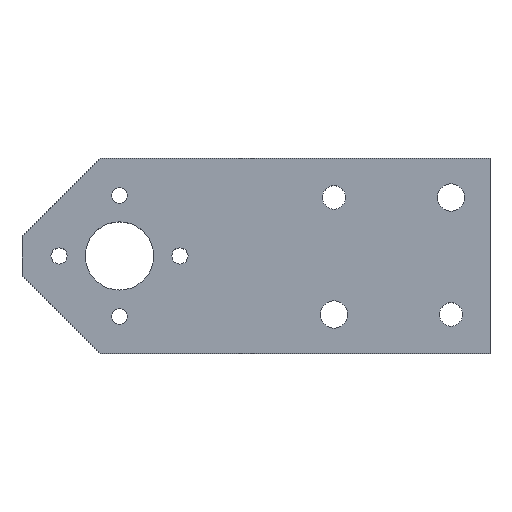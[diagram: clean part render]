
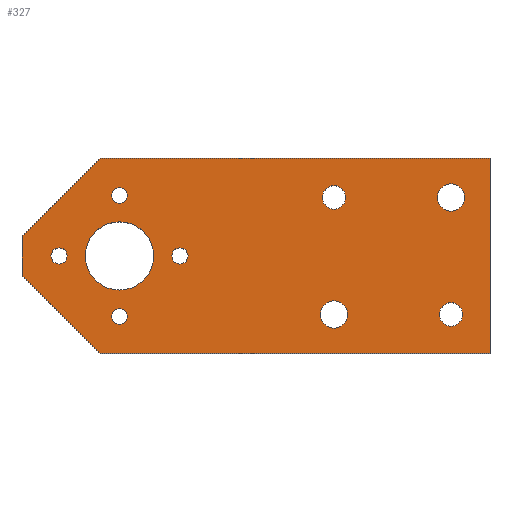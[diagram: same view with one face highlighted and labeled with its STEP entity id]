
A CAD part, top view. The second image highlights one B-rep face of the part: STEP entity #327.
In plain terms, the highlighted planar face has unit normal (0, 0, 1).
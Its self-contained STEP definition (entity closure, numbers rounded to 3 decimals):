
#42=FACE_BOUND('',#120,.T.);
#43=FACE_BOUND('',#121,.T.);
#44=FACE_BOUND('',#122,.T.);
#45=FACE_BOUND('',#123,.T.);
#46=FACE_BOUND('',#124,.T.);
#47=FACE_BOUND('',#125,.T.);
#48=FACE_BOUND('',#126,.T.);
#49=FACE_BOUND('',#127,.T.);
#50=FACE_BOUND('',#128,.T.);
#60=CIRCLE('',#346,2.067);
#61=CIRCLE('',#348,2.067);
#62=CIRCLE('',#350,2.);
#63=CIRCLE('',#352,2.);
#64=CIRCLE('',#354,8.75);
#65=CIRCLE('',#356,3.);
#66=CIRCLE('',#358,3.);
#67=CIRCLE('',#360,3.5);
#68=CIRCLE('',#362,3.5);
#84=FACE_OUTER_BOUND('',#119,.T.);
#119=EDGE_LOOP('',(#288,#289,#290,#291,#292,#293));
#120=EDGE_LOOP('',(#294));
#121=EDGE_LOOP('',(#295));
#122=EDGE_LOOP('',(#296));
#123=EDGE_LOOP('',(#297));
#124=EDGE_LOOP('',(#298));
#125=EDGE_LOOP('',(#299));
#126=EDGE_LOOP('',(#300));
#127=EDGE_LOOP('',(#301));
#128=EDGE_LOOP('',(#302));
#129=LINE('',#460,#147);
#135=LINE('',#471,#153);
#141=LINE('',#501,#159);
#143=LINE('',#505,#161);
#145=LINE('',#536,#163);
#146=LINE('',#538,#164);
#147=VECTOR('',#370,28.284);
#153=VECTOR('',#378,10.);
#159=VECTOR('',#406,28.284);
#161=VECTOR('',#410,100.);
#163=VECTOR('',#450,50.);
#164=VECTOR('',#453,100.);
#165=VERTEX_POINT('',#458);
#166=VERTEX_POINT('',#459);
#170=VERTEX_POINT('',#469);
#183=VERTEX_POINT('',#499);
#184=VERTEX_POINT('',#503);
#185=VERTEX_POINT('',#507);
#186=VERTEX_POINT('',#510);
#187=VERTEX_POINT('',#513);
#188=VERTEX_POINT('',#516);
#189=VERTEX_POINT('',#519);
#190=VERTEX_POINT('',#522);
#191=VERTEX_POINT('',#525);
#192=VERTEX_POINT('',#528);
#193=VERTEX_POINT('',#531);
#194=VERTEX_POINT('',#534);
#195=EDGE_CURVE('',#165,#166,#129,.T.);
#201=EDGE_CURVE('',#165,#170,#135,.T.);
#216=EDGE_CURVE('',#183,#170,#141,.T.);
#218=EDGE_CURVE('',#183,#184,#143,.T.);
#219=EDGE_CURVE('',#185,#185,#60,.T.);
#220=EDGE_CURVE('',#186,#186,#61,.T.);
#221=EDGE_CURVE('',#187,#187,#62,.T.);
#222=EDGE_CURVE('',#188,#188,#63,.T.);
#223=EDGE_CURVE('',#189,#189,#64,.T.);
#224=EDGE_CURVE('',#190,#190,#65,.T.);
#225=EDGE_CURVE('',#191,#191,#66,.T.);
#226=EDGE_CURVE('',#192,#192,#67,.T.);
#227=EDGE_CURVE('',#193,#193,#68,.T.);
#229=EDGE_CURVE('',#184,#194,#145,.T.);
#230=EDGE_CURVE('',#194,#166,#146,.T.);
#288=ORIENTED_EDGE('',*,*,#195,.F.);
#289=ORIENTED_EDGE('',*,*,#201,.T.);
#290=ORIENTED_EDGE('',*,*,#216,.F.);
#291=ORIENTED_EDGE('',*,*,#218,.T.);
#292=ORIENTED_EDGE('',*,*,#229,.T.);
#293=ORIENTED_EDGE('',*,*,#230,.T.);
#294=ORIENTED_EDGE('',*,*,#219,.T.);
#295=ORIENTED_EDGE('',*,*,#220,.T.);
#296=ORIENTED_EDGE('',*,*,#221,.T.);
#297=ORIENTED_EDGE('',*,*,#222,.T.);
#298=ORIENTED_EDGE('',*,*,#223,.T.);
#299=ORIENTED_EDGE('',*,*,#224,.T.);
#300=ORIENTED_EDGE('',*,*,#225,.T.);
#301=ORIENTED_EDGE('',*,*,#226,.T.);
#302=ORIENTED_EDGE('',*,*,#227,.T.);
#310=PLANE('',#365);
#327=ADVANCED_FACE('',(#84,#42,#43,#44,#45,#46,#47,#48,#49,#50),#310,.T.);
#346=AXIS2_PLACEMENT_3D('',#508,#413,#414);
#348=AXIS2_PLACEMENT_3D('',#511,#417,#418);
#350=AXIS2_PLACEMENT_3D('',#514,#421,#422);
#352=AXIS2_PLACEMENT_3D('',#517,#425,#426);
#354=AXIS2_PLACEMENT_3D('',#520,#429,#430);
#356=AXIS2_PLACEMENT_3D('',#523,#433,#434);
#358=AXIS2_PLACEMENT_3D('',#526,#437,#438);
#360=AXIS2_PLACEMENT_3D('',#529,#441,#442);
#362=AXIS2_PLACEMENT_3D('',#532,#445,#446);
#365=AXIS2_PLACEMENT_3D('',#539,#454,#455);
#370=DIRECTION('',(0.707,0.707,0.));
#378=DIRECTION('',(0.,-1.,0.));
#406=DIRECTION('',(-0.707,0.707,0.));
#410=DIRECTION('',(1.,0.,0.));
#413=DIRECTION('center_axis',(0.,0.,-1.));
#414=DIRECTION('ref_axis',(1.,0.,0.));
#417=DIRECTION('center_axis',(0.,0.,-1.));
#418=DIRECTION('ref_axis',(1.,0.,0.));
#421=DIRECTION('center_axis',(0.,0.,-1.));
#422=DIRECTION('ref_axis',(1.,0.,0.));
#425=DIRECTION('center_axis',(0.,0.,-1.));
#426=DIRECTION('ref_axis',(1.,0.,0.));
#429=DIRECTION('center_axis',(0.,0.,-1.));
#430=DIRECTION('ref_axis',(1.,0.,0.));
#433=DIRECTION('center_axis',(0.,0.,-1.));
#434=DIRECTION('ref_axis',(1.,0.,0.));
#437=DIRECTION('center_axis',(0.,0.,-1.));
#438=DIRECTION('ref_axis',(1.,0.,0.));
#441=DIRECTION('center_axis',(0.,0.,-1.));
#442=DIRECTION('ref_axis',(1.,0.,0.));
#445=DIRECTION('center_axis',(0.,0.,-1.));
#446=DIRECTION('ref_axis',(1.,0.,0.));
#450=DIRECTION('',(0.,1.,0.));
#453=DIRECTION('',(-1.,0.,0.));
#454=DIRECTION('center_axis',(0.,0.,1.));
#455=DIRECTION('ref_axis',(1.,0.,0.));
#458=CARTESIAN_POINT('',(-60.,5.,4.75));
#459=CARTESIAN_POINT('',(-40.,25.,4.75));
#460=CARTESIAN_POINT('',(-41.25,23.75,4.75));
#469=CARTESIAN_POINT('',(-60.,-5.,4.75));
#471=CARTESIAN_POINT('',(-60.,-25.,4.75));
#499=CARTESIAN_POINT('',(-40.,-25.,4.75));
#501=CARTESIAN_POINT('',(-41.25,-23.75,4.75));
#503=CARTESIAN_POINT('',(60.,-25.,4.75));
#505=CARTESIAN_POINT('',(60.,-25.,4.75));
#507=CARTESIAN_POINT('',(-48.433,0.,4.75));
#508=CARTESIAN_POINT('Origin',(-50.5,0.,4.75));
#510=CARTESIAN_POINT('',(-17.433,0.,4.75));
#511=CARTESIAN_POINT('Origin',(-19.5,0.,4.75));
#513=CARTESIAN_POINT('',(-33.,15.5,4.75));
#514=CARTESIAN_POINT('Origin',(-35.,15.5,4.75));
#516=CARTESIAN_POINT('',(-33.,-15.5,4.75));
#517=CARTESIAN_POINT('Origin',(-35.,-15.5,4.75));
#519=CARTESIAN_POINT('',(-26.25,0.,4.75));
#520=CARTESIAN_POINT('Origin',(-35.,0.,4.75));
#522=CARTESIAN_POINT('',(23.,15.,4.75));
#523=CARTESIAN_POINT('Origin',(20.,15.,4.75));
#525=CARTESIAN_POINT('',(53.,-15.,4.75));
#526=CARTESIAN_POINT('Origin',(50.,-15.,4.75));
#528=CARTESIAN_POINT('',(23.5,-15.,4.75));
#529=CARTESIAN_POINT('Origin',(20.,-15.,4.75));
#531=CARTESIAN_POINT('',(53.5,15.,4.75));
#532=CARTESIAN_POINT('Origin',(50.,15.,4.75));
#534=CARTESIAN_POINT('',(60.,25.,4.75));
#536=CARTESIAN_POINT('',(60.,25.,4.75));
#538=CARTESIAN_POINT('',(-60.,25.,4.75));
#539=CARTESIAN_POINT('Origin',(0.,0.,4.75));
